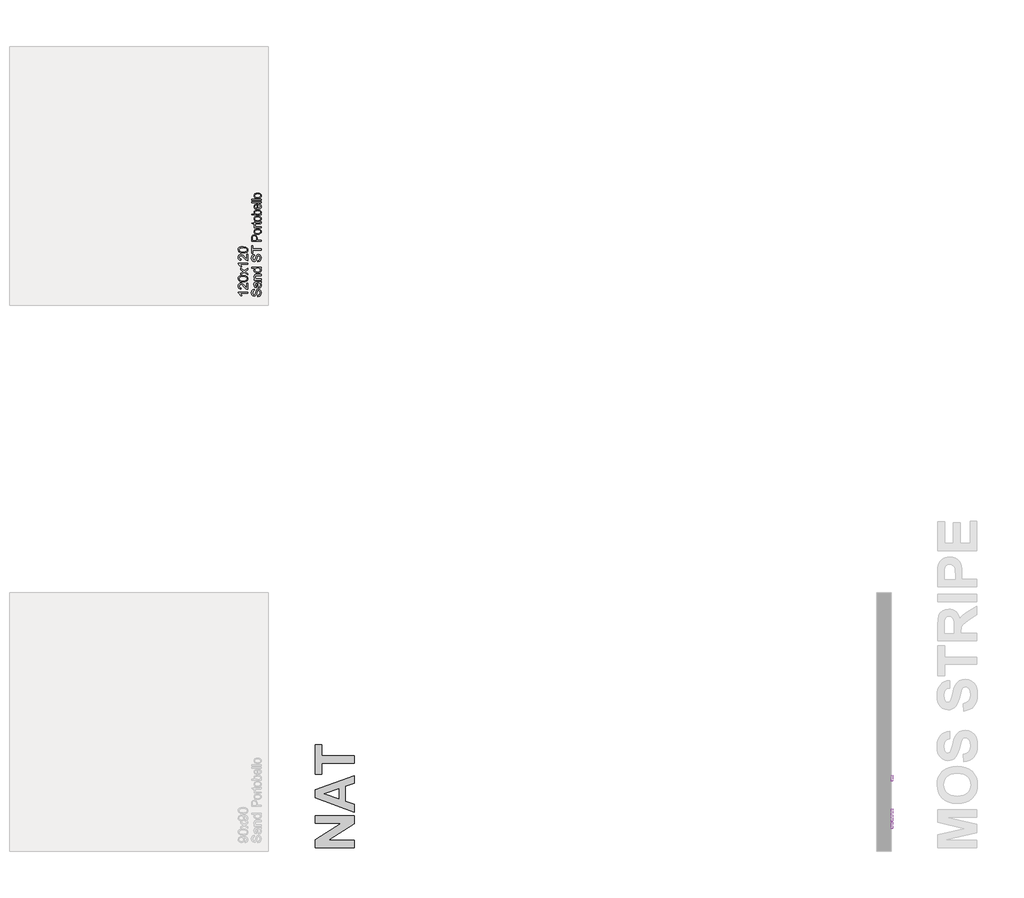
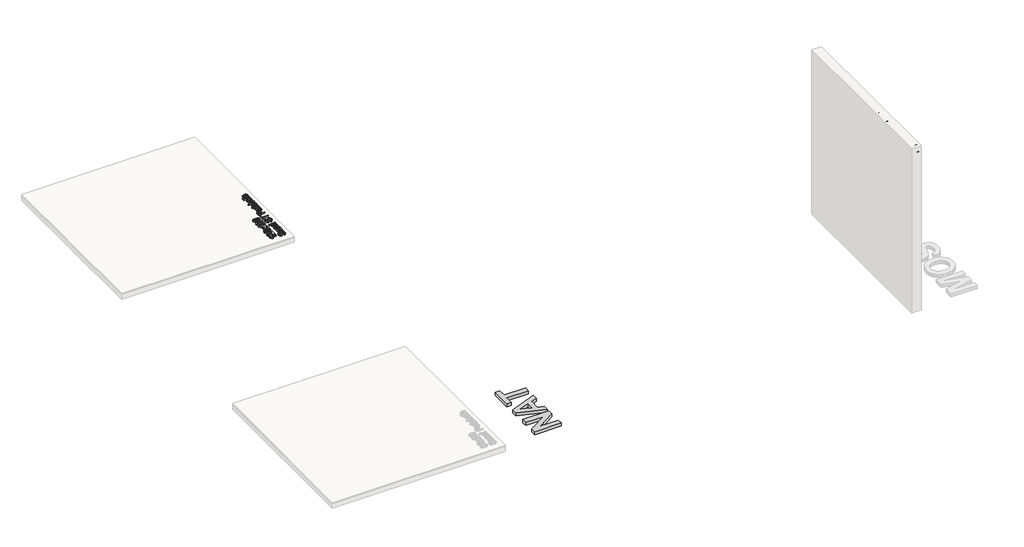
# One storey, part 4 of 19: 7 proxies.
"""IFC4 building model written with IfcOpenShell, lengths in millimetres."""

from ifc_helpers import new_model, si_unit, frame, origin, origin_with_axes, place, context, project, spatial, polyline, outline, extrude, element, save

model = new_model("IFC4")

# Units and contexts
model_context = context("Model", 3, world=origin())
ifc_project = project(units=[si_unit("LENGTHUNIT", "METRE", prefix="MILLI")], contexts=[model_context])

# Site, building, storey
site = spatial("IfcSite", under=ifc_project)
building = spatial("IfcBuilding", under=site)
storey = spatial("IfcBuildingStorey", under=building, Name="PORTOBELLO - SHOWROOM", Elevation=0.0)

# Proxies
placement = place(None, origin())
element("IfcBuildingElementProxy", 1, Name="10mm Arial", ObjectType="10mm Arial", at=placement, inside=storey, context=model_context, shape_type="SweptSolid", body=[
    extrude(outline(polyline([(-6403.2913328, -1306.5341901), (-6403.2913328, -1293.9771514), (-6390.7220313, -1289.9304494), (-6382.7757802, -1280.0466865), (-6379.7468851, -1264.9880502), (-6382.0400162, -1251.8669257), (-6388.3430611, -1243.393377), (-6396.7675588, -1240.6097366), (-6404.6034453, -1242.6944012), (-6410.3056162, -1251.2292635), (-6415.1003449, -1269.5129987), (-6421.2930251, -1289.1946854), (-6430.6372278, -1299.875526), (-6443.1206902, -1303.3949304), (-6457.3331979, -1299.0416602), (-6467.3641136, -1286.3252059), (-6470.7854162, -1267.7103769), (-6467.2046981, -1247.8447492), (-6456.683273, -1234.6009973), (-6440.9624491, -1229.6223277), (-6440.9624491, -1242.1793664), (-6448.4549791, -1244.4847603), (-6453.8628444, -1249.2917517), (-6458.2283774, -1267.2198676), (-6453.9118953, -1285.1970344), (-6443.4885721, -1290.8378917), (-6434.7820316, -1286.8402407), (-6427.7677482, -1266.3369508), (-6421.4647034, -1244.1168783), (-6411.2866348, -1231.9645097), (-6397.0863898, -1228.0526978), (-6382.0645417, -1232.5531209), (-6371.1016582, -1245.5025671), (-6367.1898463, -1264.4975408), (-6371.4082266, -1286.9260798), (-6384.1124181, -1301.1140621), (-6403.2913328, -1306.5341901)])), frame((0.0, 0.0, 17.0), z_axis=(0.0, 0.0, 1.0), x_axis=(1.0, 0.0, 0.0)), (0.0, 0.0, 1.0), 20.0),
    extrude(outline(polyline([(-6378.1772553, -1163.6978741), (-6369.6669185, -1175.8747682), (-6367.1898463, -1189.3269865), (-6368.6797684, -1199.8208204), (-6373.1495347, -1207.5616707), (-6379.9369575, -1212.3349396), (-6388.3798493, -1213.9260292), (-6398.3126631, -1211.5225335), (-6405.5231502, -1205.2072259), (-6409.6434286, -1196.4148462), (-6411.5318895, -1185.5500647), (-6415.8483716, -1163.7714505), (-6418.6442747, -1163.6978741), (-6427.914901, -1167.1559649), (-6431.54467, -1181.0373789), (-6429.1289116, -1193.7415704), (-6420.5572611, -1199.7993606), (-6422.126891, -1212.3563994), (-6434.3896241, -1206.9240086), (-6441.5755858, -1195.9856506), (-6444.1017088, -1179.4186981), (-6441.8698914, -1164.2006462), (-6436.2658223, -1155.6044703), (-6427.7432228, -1151.753972), (-6416.7558138, -1151.1408354), (-6401.1330918, -1151.1408354), (-6379.3176895, -1150.5031733), (-6368.7594762, -1148.0015757), (-6368.7594762, -1160.5586145), (-6378.1772553, -1163.6978741)]), holes=[polyline([(-6403.2913328, -1163.6978741), (-6399.4408346, -1183.9559093), (-6397.4052209, -1194.7593773), (-6394.0942829, -1199.6522078), (-6389.2627661, -1201.3689905), (-6382.4692119, -1197.6288568), (-6379.7468851, -1186.6537106), (-6382.7512547, -1173.9495191), (-6390.0230555, -1165.7580133), (-6399.7351402, -1163.7714505), (-6403.2913328, -1163.6978741)])]), frame((0.0, 0.0, 17.0), z_axis=(0.0, 0.0, 1.0), x_axis=(1.0, 0.0, 0.0)), (0.0, 0.0, 1.0), 20.0),
    extrude(outline(polyline([(-6368.7594762, -1133.8749071), (-6442.532079, -1133.8749071), (-6442.532079, -1121.3178683), (-6432.2313831, -1121.3178683), (-6441.1341274, -1111.7161482), (-6444.1017088, -1098.6072865), (-6441.7104758, -1086.7492235), (-6435.4319565, -1078.6558196), (-6426.1981184, -1074.8911605), (-6414.0580125, -1074.2289729), (-6368.7594762, -1074.2289729), (-6368.7594762, -1086.7860117), (-6412.3657554, -1086.7860117), (-6423.4757916, -1088.2330142), (-6429.3496408, -1093.3465739), (-6431.54467, -1101.9672754), (-6426.6150513, -1115.5911719), (-6419.4720092, -1119.8861942), (-6407.9021205, -1121.3178683), (-6368.7594762, -1121.3178683), (-6368.7594762, -1133.8749071)])), frame((0.0, 0.0, 17.0), z_axis=(0.0, 0.0, 1.0), x_axis=(1.0, 0.0, 0.0)), (0.0, 0.0, 1.0), 20.0),
    extrude(outline(polyline([(-6368.7594762, -1011.4437791), (-6380.6052764, -1011.4437791), (-6370.5437039, -1019.7517808), (-6367.1898463, -1031.2358304), (-6372.0458887, -1046.7849761), (-6385.5962088, -1057.772385), (-6405.5722012, -1061.6719341), (-6425.5604563, -1058.0789533), (-6439.3192429, -1047.3122736), (-6444.1017088, -1031.2848813), (-6440.6804063, -1019.7088612), (-6431.7899247, -1011.4437791), (-6469.2157863, -1011.4437791), (-6469.2157863, -998.8867403), (-6368.7594762, -998.8867403), (-6368.7594762, -1011.4437791)]), holes=[polyline([(-6405.6212521, -1049.1148954), (-6394.2628955, -1047.6985497), (-6386.18482, -1043.4495127), (-6381.3563688, -1037.2752265), (-6379.7468851, -1030.0831335), (-6381.2827924, -1022.8941062), (-6385.8905144, -1016.8761699), (-6393.6558902, -1012.8018768), (-6404.6647589, -1011.4437791), (-6416.7006315, -1012.8264022), (-6425.0454215, -1016.9742717), (-6429.9198579, -1023.1454922), (-6431.54467, -1030.5981683), (-6429.9842372, -1037.8638377), (-6425.3029389, -1043.8173947), (-6417.2616516, -1047.7905202), (-6405.6212521, -1049.1148954)])]), frame((0.0, 0.0, 17.0), z_axis=(0.0, 0.0, 1.0), x_axis=(1.0, 0.0, 0.0)), (0.0, 0.0, 1.0), 20.0),
    extrude(outline(polyline([(-6403.2913328, -943.9496957), (-6403.2913328, -931.3926569), (-6390.7220313, -927.345955), (-6382.7757802, -917.462192), (-6379.7468851, -902.4035557), (-6382.0400162, -889.2824312), (-6388.3430611, -880.8088826), (-6396.7675588, -878.0252422), (-6404.6034453, -880.1099068), (-6410.3056162, -888.6447691), (-6415.1003449, -906.9285042), (-6421.2930251, -926.610191), (-6430.6372278, -937.2910316), (-6443.1206902, -940.810436), (-6457.3331979, -936.4571657), (-6467.3641136, -923.7407114), (-6470.7854162, -905.1258825), (-6467.2046981, -885.2602547), (-6456.683273, -872.0165029), (-6440.9624491, -867.0378332), (-6440.9624491, -879.594872), (-6448.4549791, -881.9002658), (-6453.8628444, -886.7072572), (-6458.2283774, -904.6353731), (-6453.9118953, -922.61254), (-6443.4885721, -928.2533972), (-6434.7820316, -924.2557462), (-6427.7677482, -903.7524564), (-6421.4647034, -881.5323838), (-6411.2866348, -869.3800153), (-6397.0863898, -865.4682034), (-6382.0645417, -869.9686265), (-6371.1016582, -882.9180727), (-6367.1898463, -901.9130464), (-6371.4082266, -924.3415853), (-6384.1124181, -938.5295676), (-6403.2913328, -943.9496957)])), frame((0.0, 0.0, 17.0), z_axis=(0.0, 0.0, 1.0), x_axis=(1.0, 0.0, 0.0)), (0.0, 0.0, 1.0), 20.0),
    extrude(outline(polyline([(-6368.7594762, -821.5185677), (-6456.6587476, -821.5185677), (-6456.6587476, -854.4807945), (-6469.2157863, -854.4807945), (-6469.2157863, -775.9993022), (-6456.6587476, -775.9993022), (-6456.6587476, -808.9615289), (-6368.7594762, -808.9615289), (-6368.7594762, -821.5185677)])), frame((0.0, 0.0, 17.0), z_axis=(0.0, 0.0, 1.0), x_axis=(1.0, 0.0, 0.0)), (0.0, 0.0, 1.0), 20.0),
])
element("IfcBuildingElementProxy", 2, Name="10mm Arial", ObjectType="10mm Arial", at=placement, inside=storey, context=model_context, shape_type="SweptSolid", body=[
    extrude(outline(polyline([(-6508.7594762, -1259.4452948), (-6508.7594762, -1272.0023335), (-6587.0447648, -1272.0023335), (-6578.5712161, -1283.8971847), (-6572.2313831, -1297.1164111), (-6584.1017088, -1297.1164111), (-6595.8494072, -1278.7100486), (-6609.2157863, -1267.5386987), (-6609.2157863, -1259.4452948), (-6508.7594762, -1259.4452948)])), frame((0.0, 0.0, 17.0), z_axis=(0.0, 0.0, 1.0), x_axis=(1.0, 0.0, 0.0)), (0.0, 0.0, 1.0), 20.0),
    extrude(outline(polyline([(-6521.316515, -1165.267504), (-6508.7594762, -1165.267504), (-6508.7594762, -1231.1919575), (-6517.4169658, -1229.8430569), (-6530.7465568, -1222.2033741), (-6545.3024211, -1206.4702875), (-6566.2226438, -1184.8020379), (-6580.4474143, -1179.3941726), (-6591.9621208, -1184.5077323), (-6596.6587476, -1197.8618488), (-6592.0724854, -1211.7800509), (-6579.3928193, -1217.0652889), (-6580.9624491, -1229.6223277), (-6593.1086863, -1226.5781042), (-6601.9807738, -1219.9960821), (-6607.4070332, -1210.2196181), (-6609.2157863, -1197.5920686), (-6607.2046981, -1184.8725487), (-6601.1714334, -1175.1144787), (-6592.1583245, -1168.9064701), (-6581.2077038, -1166.8371338), (-6569.3005899, -1169.0689513), (-6556.9888058, -1176.4879048), (-6539.7841911, -1194.4773344), (-6527.7053989, -1208.9228341), (-6521.316515, -1214.5882168), (-6521.316515, -1165.267504)])), frame((0.0, 0.0, 17.0), z_axis=(0.0, 0.0, 1.0), x_axis=(1.0, 0.0, 0.0)), (0.0, 0.0, 1.0), 20.0),
    extrude(outline(polyline([(-6558.1782909, -1152.7104652), (-6587.081553, -1149.0193825), (-6603.7466074, -1138.0564991), (-6609.2157863, -1119.7482385), (-6605.9784248, -1105.0820096), (-6596.6464848, -1094.952992), (-6581.7840522, -1089.0668801), (-6558.1782909, -1086.7860117), (-6529.3976561, -1090.4403062), (-6512.6958135, -1101.3664014), (-6508.5663381, -1109.5977611), (-6507.1898463, -1119.7482385), (-6509.5810793, -1132.7957866), (-6516.7547782, -1142.704075), (-6533.744795, -1150.2088677), (-6558.1782909, -1152.7104652)]), holes=[polyline([(-6558.2028163, -1140.1534265), (-6538.4506189, -1138.6818985), (-6527.0186859, -1134.2673145), (-6521.5648353, -1127.6944896), (-6519.7468851, -1119.7482385), (-6521.5709667, -1111.8019874), (-6527.0432114, -1105.2291624), (-6538.4812757, -1100.8145784), (-6558.2028163, -1099.3430505), (-6577.5104897, -1100.7655275), (-6589.0313275, -1105.0329586), (-6594.7518926, -1111.5935209), (-6596.6587476, -1119.8953913), (-6594.9787531, -1127.7558032), (-6589.9387698, -1134.0711108), (-6577.7005621, -1138.6328475), (-6558.2028163, -1140.1534265)])]), frame((0.0, 0.0, 17.0), z_axis=(0.0, 0.0, 1.0), x_axis=(1.0, 0.0, 0.0)), (0.0, 0.0, 1.0), 20.0),
    extrude(outline(polyline([(-6508.7594762, -1080.5074923), (-6545.8665068, -1053.6766321), (-6582.532079, -1078.9378625), (-6582.532079, -1063.8792261), (-6564.8492177, -1051.6900693), (-6556.5350846, -1045.9756357), (-6563.3531643, -1041.0214915), (-6582.532079, -1027.1400775), (-6582.532079, -1012.0323903), (-6545.8419813, -1038.5689449), (-6508.7594762, -1013.0134089), (-6508.7594762, -1028.0965707), (-6531.0776506, -1043.4985636), (-6535.1734034, -1046.2944668), (-6508.7594762, -1065.399805), (-6508.7594762, -1080.5074923)])), frame((0.0, 0.0, 17.0), z_axis=(0.0, 0.0, 1.0), x_axis=(1.0, 0.0, 0.0)), (0.0, 0.0, 1.0), 20.0),
    extrude(outline(polyline([(-6508.7594762, -958.0763643), (-6508.7594762, -970.6334031), (-6587.0447648, -970.6334031), (-6578.5712161, -982.5282543), (-6572.2313831, -995.7474806), (-6584.1017088, -995.7474806), (-6595.8494072, -977.3411181), (-6609.2157863, -966.1697682), (-6609.2157863, -958.0763643), (-6508.7594762, -958.0763643)])), frame((0.0, 0.0, 17.0), z_axis=(0.0, 0.0, 1.0), x_axis=(1.0, 0.0, 0.0)), (0.0, 0.0, 1.0), 20.0),
    extrude(outline(polyline([(-6521.316515, -863.8985735), (-6508.7594762, -863.8985735), (-6508.7594762, -929.8230271), (-6517.4169658, -928.4741264), (-6530.7465568, -920.8344437), (-6545.3024211, -905.101357), (-6566.2226438, -883.4331075), (-6580.4474143, -878.0252422), (-6591.9621208, -883.1388019), (-6596.6587476, -896.4929183), (-6592.0724854, -910.4111205), (-6579.3928193, -915.6963585), (-6580.9624491, -928.2533972), (-6593.1086863, -925.2091737), (-6601.9807738, -918.6271517), (-6607.4070332, -908.8506877), (-6609.2157863, -896.2231382), (-6607.2046981, -883.5036182), (-6601.1714334, -873.7455483), (-6592.1583245, -867.5375396), (-6581.2077038, -865.4682034), (-6569.3005899, -867.7000208), (-6556.9888058, -875.1189744), (-6539.7841911, -893.108404), (-6527.7053989, -907.5539036), (-6521.316515, -913.2192864), (-6521.316515, -863.8985735)])), frame((0.0, 0.0, 17.0), z_axis=(0.0, 0.0, 1.0), x_axis=(1.0, 0.0, 0.0)), (0.0, 0.0, 1.0), 20.0),
    extrude(outline(polyline([(-6558.1782909, -851.3415348), (-6587.081553, -847.6504521), (-6603.7466074, -836.6875686), (-6609.2157863, -818.379308), (-6605.9784248, -803.7130791), (-6596.6464848, -793.5840615), (-6581.7840522, -787.6979496), (-6558.1782909, -785.4170812), (-6529.3976561, -789.0713757), (-6512.6958135, -799.997471), (-6508.5663381, -808.2288306), (-6507.1898463, -818.379308), (-6509.5810793, -831.4268561), (-6516.7547782, -841.3351445), (-6533.744795, -848.8399372), (-6558.1782909, -851.3415348)]), holes=[polyline([(-6558.2028163, -838.784496), (-6538.4506189, -837.312968), (-6527.0186859, -832.8983841), (-6521.5648353, -826.3255591), (-6519.7468851, -818.379308), (-6521.5709667, -810.4330569), (-6527.0432114, -803.8602319), (-6538.4812757, -799.445648), (-6558.2028163, -797.97412), (-6577.5104897, -799.3965971), (-6589.0313275, -803.6640282), (-6594.7518926, -810.2245904), (-6596.6587476, -818.5264608), (-6594.9787531, -826.3868728), (-6589.9387698, -832.7021804), (-6577.7005621, -837.2639171), (-6558.2028163, -838.784496)])]), frame((0.0, 0.0, 17.0), z_axis=(0.0, 0.0, 1.0), x_axis=(1.0, 0.0, 0.0)), (0.0, 0.0, 1.0), 20.0),
])
element("IfcBuildingElementProxy", 3, Name="10mm Arial", ObjectType="10mm Arial", at=placement, inside=storey, context=model_context, shape_type="SweptSolid", body=[
    extrude(outline(polyline([(-7011.3816689, 2567.3783476), (-7008.0339427, 2589.5922887), (-6997.9907643, 2606.3983645), (-6982.6562164, 2616.9749719), (-6963.4343822, 2620.5005077), (-6950.2580754, 2618.8450387), (-6938.442932, 2613.8786317), (-6928.6327454, 2605.9507747), (-6921.4713093, 2595.4109556), (-6917.0935135, 2582.7680777), (-6915.6342483, 2568.5310445), (-6917.1701556, 2554.1039389), (-6921.7778776, 2541.2832514), (-6929.2029625, 2530.7250381), (-6939.1909587, 2523.0853553), (-6950.9049346, 2518.4500422), (-6963.5079586, 2516.9049378), (-6976.8866005, 2518.6125234), (-6988.7691889, 2523.7352802), (-6998.55485, 2531.81029), (-7005.6427098, 2542.3746346), (-7011.3816689, 2567.3783476)]), holes=[polyline([(-6998.8246301, 2567.2557202), (-6996.3138355, 2551.5410277), (-6988.7814516, 2539.5664687), (-6977.4598832, 2531.9880996), (-6963.581535, 2529.4619766), (-6949.5008516, 2532.0126251), (-6938.1608891, 2539.6645706), (-6930.6836876, 2552.0070115), (-6928.191287, 2568.6291463), (-6932.4587182, 2589.3531654), (-6944.9299178, 2603.0751638), (-6963.3608058, 2607.9434689), (-6976.8682064, 2605.5982212), (-6988.352256, 2598.562478), (-6996.2065366, 2586.0452931), (-6998.8246301, 2567.2557202)])]), frame((205.794953, 0.0, 0.0), z_axis=(1.0, 0.0, 0.0), x_axis=(0.0, 1.0, 0.0)), (0.0, 0.0, 1.0), 20.0),
    extrude(outline(polyline([(-6855.9883141, 2518.4745677), (-6855.9883141, 2579.6901317), (-6866.975723, 2579.6901317), (-6866.975723, 2592.2471704), (-6855.9883141, 2592.2471704), (-6855.9883141, 2599.6783867), (-6854.6639389, 2610.1507609), (-6848.2382668, 2617.6310281), (-6835.5831261, 2620.5005077), (-6824.1297333, 2619.1270815), (-6825.9691433, 2607.3548577), (-6833.2041559, 2607.9434689), (-6841.1136188, 2605.8588043), (-6843.4312753, 2598.0842314), (-6843.4312753, 2592.2471704), (-6829.3046067, 2592.2471704), (-6829.3046067, 2579.6901317), (-6843.4312753, 2579.6901317), (-6843.4312753, 2518.4745677), (-6855.9883141, 2518.4745677)])), frame((205.794953, 0.0, 0.0), z_axis=(1.0, 0.0, 0.0), x_axis=(0.0, 1.0, 0.0)), (0.0, 0.0, 1.0), 20.0),
    extrude(outline(polyline([(-6896.7986901, 2518.4745677), (-6896.7986901, 2579.6901317), (-6907.786099, 2579.6901317), (-6907.786099, 2592.2471704), (-6896.7986901, 2592.2471704), (-6896.7986901, 2599.6783867), (-6895.4743149, 2610.1507609), (-6889.0486428, 2617.6310281), (-6876.3935021, 2620.5005077), (-6864.9401093, 2619.1270815), (-6866.7795193, 2607.3548577), (-6874.0145319, 2607.9434689), (-6881.9239948, 2605.8588043), (-6884.2416513, 2598.0842314), (-6884.2416513, 2592.2471704), (-6870.1149827, 2592.2471704), (-6870.1149827, 2579.6901317), (-6884.2416513, 2579.6901317), (-6884.2416513, 2518.4745677), (-6896.7986901, 2518.4745677)])), frame((205.794953, 0.0, 0.0), z_axis=(1.0, 0.0, 0.0), x_axis=(0.0, 1.0, 0.0)), (0.0, 0.0, 1.0), 20.0),
    extrude(outline(polyline([(-6759.529655, 2518.4745677), (-6786.9246009, 2618.9308778), (-6773.9751547, 2618.9308778), (-6758.0826525, 2552.9083224), (-6753.1775592, 2532.5276599), (-6747.9291094, 2550.5538776), (-6728.0144307, 2618.9308778), (-6709.3505508, 2618.9308778), (-6694.8805257, 2569.3649103), (-6684.113846, 2532.5276599), (-6679.3559055, 2552.3197112), (-6663.340776, 2618.9308778), (-6650.3668043, 2618.9308778), (-6677.7372247, 2518.4745677), (-6691.1771803, 2518.4745677), (-6715.2857137, 2595.9750413), (-6718.6457026, 2606.790772), (-6722.4226244, 2593.7677493), (-6744.3729168, 2518.4745677), (-6759.529655, 2518.4745677)])), frame((205.794953, 0.0, 0.0), z_axis=(1.0, 0.0, 0.0), x_axis=(0.0, 1.0, 0.0)), (0.0, 0.0, 1.0), 20.0),
    extrude(outline(polyline([(-6639.3793954, 2518.4745677), (-6639.3793954, 2618.9308778), (-6626.8223566, 2618.9308778), (-6626.8223566, 2581.9955255), (-6617.0305642, 2590.8614816), (-6604.9701661, 2593.8168003), (-6590.8680229, 2590.5917015), (-6582.3086352, 2581.6766944), (-6579.7334612, 2565.1710556), (-6579.7334612, 2518.4745677), (-6592.2905, 2518.4745677), (-6592.2905, 2563.8712059), (-6596.288151, 2577.1149577), (-6607.6189164, 2581.2597615), (-6617.9073496, 2578.4638583), (-6624.7744801, 2570.8854892), (-6626.8223566, 2557.6662629), (-6626.8223566, 2518.4745677), (-6639.3793954, 2518.4745677)])), frame((205.794953, 0.0, 0.0), z_axis=(1.0, 0.0, 0.0), x_axis=(0.0, 1.0, 0.0)), (0.0, 0.0, 1.0), 20.0),
    extrude(outline(polyline([(225.794953, -6549.9104941), (225.794953, -6562.4675329), (205.794953, -6562.4675329), (205.794953, -6549.9104941), (225.794953, -6549.9104941)])), frame((0.0, 0.0, 2606.373839), z_axis=(0.0, 0.0, 1.0), x_axis=(1.0, 0.0, 0.0)), (0.0, 0.0, 1.0), 12.5570388),
    extrude(outline(polyline([(225.794953, -6549.9104941), (225.794953, -6562.4675329), (205.794953, -6562.4675329), (205.794953, -6549.9104941), (225.794953, -6549.9104941)])), frame((0.0, 0.0, 2518.4745677), z_axis=(0.0, 0.0, 1.0), x_axis=(1.0, 0.0, 0.0)), (0.0, 0.0, 1.0), 73.7726028),
    extrude(outline(polyline([(-6504.3912286, 2528.9469418), (-6502.8215987, 2518.1066857), (-6512.2148524, 2516.9049378), (-6522.7362774, 2518.9896025), (-6527.9847272, 2524.4587815), (-6529.5053061, 2538.7080774), (-6529.5053061, 2579.6901317), (-6538.9230852, 2579.6901317), (-6538.9230852, 2592.2471704), (-6529.5053061, 2592.2471704), (-6529.5053061, 2610.1752863), (-6516.9482674, 2617.5574517), (-6516.9482674, 2592.2471704), (-6504.3912286, 2592.2471704), (-6504.3912286, 2579.6901317), (-6516.9482674, 2579.6901317), (-6516.9482674, 2539.0759594), (-6516.2860798, 2532.6012363), (-6514.1401015, 2530.3081052), (-6509.8604076, 2529.4619766), (-6504.3912286, 2528.9469418)])), frame((205.794953, 0.0, 0.0), z_axis=(1.0, 0.0, 0.0), x_axis=(0.0, 1.0, 0.0)), (0.0, 0.0, 1.0), 20.0),
    extrude(outline(polyline([(-6440.1835577, 2540.4493855), (-6427.8717736, 2538.8797557), (-6432.3078173, 2529.602998), (-6439.38648, 2522.6684224), (-6448.9483462, 2518.345809), (-6460.8340004, 2516.9049378), (-6475.5676743, 2519.391207), (-6486.9045711, 2526.8500144), (-6494.1334523, 2538.7969822), (-6496.5430794, 2554.7477324), (-6494.1089268, 2571.2349771), (-6486.8064692, 2583.5651553), (-6475.6228566, 2591.253889), (-6461.5452389, 2593.8168003), (-6447.9060139, 2591.2600204), (-6437.0075098, 2583.5896808), (-6429.8614021, 2571.2840281), (-6427.4793661, 2554.8213088), (-6427.5529425, 2551.4367944), (-6483.9860406, 2551.4367944), (-6481.8124711, 2542.0374095), (-6476.7632908, 2535.1273593), (-6469.4761616, 2530.8783223), (-6460.5887457, 2529.4619766), (-6448.2769616, 2532.0862015), (-6440.1835577, 2540.4493855)]), holes=[polyline([(-6483.9860406, 2563.9938332), (-6440.0364049, 2563.9938332), (-6445.0641255, 2575.3736496), (-6452.3849772, 2579.7882335), (-6461.5942898, 2581.2597615), (-6477.0575964, 2576.5631347), (-6481.9228357, 2571.0724959), (-6483.9860406, 2563.9938332)])]), frame((205.794953, 0.0, 0.0), z_axis=(1.0, 0.0, 0.0), x_axis=(0.0, 1.0, 0.0)), (0.0, 0.0, 1.0), 20.0),
])
element("IfcBuildingElementProxy", 4, Name="10mm Arial", ObjectType="10mm Arial", at=placement, inside=storey, context=model_context, shape_type="SweptSolid", body=[
    extrude(outline(polyline([(-7011.3816689, 2410.158275), (-6998.8246301, 2411.7279049), (-6991.8961859, 2398.5086785), (-6978.9344769, 2394.4619766), (-6970.3260382, 2395.8537968), (-6963.6796368, 2400.0292574), (-6958.0142541, 2413.8125695), (-6963.6305859, 2426.798804), (-6977.9044073, 2431.9368892), (-6986.7090497, 2430.563463), (-6985.3110982, 2443.1205018), (-6983.3000099, 2442.973349), (-6969.050714, 2446.5785926), (-6964.3050362, 2451.152592), (-6962.7231437, 2457.6641034), (-6967.3094059, 2467.4865526), (-6979.1306806, 2471.373839), (-6991.0991082, 2467.4497644), (-6997.2550003, 2455.6775406), (-7009.812039, 2457.2471704), (-7006.114825, 2468.5227536), (-6999.5358686, 2476.9411199), (-6990.5350225, 2482.1834383), (-6979.572139, 2483.9308778), (-6964.4276636, 2480.4850498), (-6953.8326621, 2471.0672707), (-6950.1661049, 2458.3998673), (-6953.6487211, 2446.8238472), (-6963.949417, 2438.5097141), (-6950.2642067, 2429.9258009), (-6945.4572153, 2413.5918403), (-6947.860711, 2401.3536326), (-6955.0711982, 2391.1265132), (-6965.9543738, 2384.2103317), (-6979.3759353, 2381.9049378), (-6991.5160411, 2383.8731065), (-7001.3998041, 2389.7776125), (-7008.273066, 2398.8091155), (-7011.3816689, 2410.158275)])), frame((205.794953, 0.0, 0.0), z_axis=(1.0, 0.0, 0.0), x_axis=(0.0, 1.0, 0.0)), (0.0, 0.0, 1.0), 20.0),
    extrude(outline(polyline([(-6934.4698064, 2432.8933823), (-6930.7787237, 2461.7966444), (-6919.8158403, 2478.4616988), (-6901.5075797, 2483.9308778), (-6886.8413508, 2480.6935163), (-6876.7123332, 2471.3615763), (-6870.8262213, 2456.4991437), (-6868.5453529, 2432.8933823), (-6872.1996474, 2404.1127476), (-6883.1257426, 2387.410905), (-6891.3571023, 2383.2814296), (-6901.5075797, 2381.9049378), (-6914.5551277, 2384.2961708), (-6924.4634162, 2391.4698697), (-6931.9682089, 2408.4598865), (-6934.4698064, 2432.8933823)]), holes=[polyline([(-6921.9127677, 2432.9179078), (-6920.4412397, 2413.1657104), (-6916.0266557, 2401.7337774), (-6909.4538308, 2396.2799268), (-6901.5075797, 2394.4619766), (-6893.5613286, 2396.2860581), (-6886.9885036, 2401.7583028), (-6882.5739196, 2413.1963672), (-6881.1023917, 2432.9179078), (-6882.5248687, 2452.2255812), (-6886.7922998, 2463.746419), (-6893.3528621, 2469.466984), (-6901.6547325, 2471.373839), (-6909.5151444, 2469.6938446), (-6915.830452, 2464.6538613), (-6920.3921887, 2452.4156536), (-6921.9127677, 2432.9179078)])]), frame((205.794953, 0.0, 0.0), z_axis=(1.0, 0.0, 0.0), x_axis=(0.0, 1.0, 0.0)), (0.0, 0.0, 1.0), 20.0),
    extrude(outline(polyline([(-6862.2668335, 2383.4745677), (-6835.4359733, 2420.5815982), (-6860.6972037, 2457.2471704), (-6845.6385673, 2457.2471704), (-6833.4494105, 2439.5643092), (-6827.7349769, 2431.2501761), (-6822.7808327, 2438.0682557), (-6808.8994187, 2457.2471704), (-6793.7917315, 2457.2471704), (-6820.3282861, 2420.5570728), (-6794.7727501, 2383.4745677), (-6809.8559119, 2383.4745677), (-6825.2579048, 2405.792742), (-6828.053808, 2409.8884949), (-6847.1591462, 2383.4745677), (-6862.2668335, 2383.4745677)])), frame((205.794953, 0.0, 0.0), z_axis=(1.0, 0.0, 0.0), x_axis=(0.0, 1.0, 0.0)), (0.0, 0.0, 1.0), 20.0),
    extrude(outline(polyline([(-6786.9246009, 2410.158275), (-6774.3675621, 2411.7279049), (-6767.4391179, 2398.5086785), (-6754.4774089, 2394.4619766), (-6745.8689702, 2395.8537968), (-6739.2225688, 2400.0292574), (-6733.5571861, 2413.8125695), (-6739.1735179, 2426.798804), (-6753.4473393, 2431.9368892), (-6762.2519817, 2430.563463), (-6760.8540302, 2443.1205018), (-6758.8429419, 2442.973349), (-6744.593646, 2446.5785926), (-6739.8479682, 2451.152592), (-6738.2660757, 2457.6641034), (-6742.8523379, 2467.4865526), (-6754.6736126, 2471.373839), (-6766.6420402, 2467.4497644), (-6772.7979323, 2455.6775406), (-6785.354971, 2457.2471704), (-6781.657757, 2468.5227536), (-6775.0788006, 2476.9411199), (-6766.0779545, 2482.1834383), (-6755.115071, 2483.9308778), (-6739.9705956, 2480.4850498), (-6729.3755941, 2471.0672707), (-6725.7090369, 2458.3998673), (-6729.1916531, 2446.8238472), (-6739.492349, 2438.5097141), (-6725.8071388, 2429.9258009), (-6721.0001474, 2413.5918403), (-6723.4036431, 2401.3536326), (-6730.6141302, 2391.1265132), (-6741.4973059, 2384.2103317), (-6754.9188673, 2381.9049378), (-6767.0589732, 2383.8731065), (-6776.9427361, 2389.7776125), (-6783.815998, 2398.8091155), (-6786.9246009, 2410.158275)])), frame((205.794953, 0.0, 0.0), z_axis=(1.0, 0.0, 0.0), x_axis=(0.0, 1.0, 0.0)), (0.0, 0.0, 1.0), 20.0),
    extrude(outline(polyline([(-6710.0127384, 2432.8933823), (-6706.3216557, 2461.7966444), (-6695.3587723, 2478.4616988), (-6677.0505117, 2483.9308778), (-6662.3842828, 2480.6935163), (-6652.2552652, 2471.3615763), (-6646.3691533, 2456.4991437), (-6644.0882849, 2432.8933823), (-6647.7425794, 2404.1127476), (-6658.6686746, 2387.410905), (-6666.9000343, 2383.2814296), (-6677.0505117, 2381.9049378), (-6690.0980598, 2384.2961708), (-6700.0063482, 2391.4698697), (-6707.5111409, 2408.4598865), (-6710.0127384, 2432.8933823)]), holes=[polyline([(-6697.4556997, 2432.9179078), (-6695.9841717, 2413.1657104), (-6691.5695877, 2401.7337774), (-6684.9967628, 2396.2799268), (-6677.0505117, 2394.4619766), (-6669.1042606, 2396.2860581), (-6662.5314356, 2401.7583028), (-6658.1168516, 2413.1963672), (-6656.6453237, 2432.9179078), (-6658.0678007, 2452.2255812), (-6662.3352319, 2463.746419), (-6668.8957941, 2469.466984), (-6677.1976645, 2471.373839), (-6685.0580764, 2469.6938446), (-6691.373384, 2464.6538613), (-6695.9351207, 2452.4156536), (-6697.4556997, 2432.9179078)])]), frame((205.794953, 0.0, 0.0), z_axis=(1.0, 0.0, 0.0), x_axis=(0.0, 1.0, 0.0)), (0.0, 0.0, 1.0), 20.0),
])
element("IfcBuildingElementProxy", 5, Name="10mm Arial Narrow", ObjectType="10mm Arial Narrow", at=placement, inside=storey, context=model_context, shape_type="SweptSolid", body=[
    extrude(outline(polyline([(-6368.7594762, -727.1065049), (-6469.4780799, -727.1065049), (-6469.4780799, -695.8096202), (-6467.5997592, -679.5139187), (-6458.119316, -668.0409326), (-6441.1002072, -663.7512541), (-6429.0243817, -665.5375625), (-6419.3979879, -670.8964877), (-6413.0967295, -680.6402765), (-6410.99631, -695.5811758), (-6410.99631, -717.3595432), (-6368.7594762, -717.3595432), (-6368.7594762, -727.1065049)]), holes=[polyline([(-6422.3677653, -717.3595432), (-6422.3677653, -694.3881883), (-6426.8985795, -678.5239929), (-6440.5671703, -673.4982158), (-6450.7329467, -675.9730303), (-6456.5328965, -681.9506591), (-6458.1066247, -694.6166327), (-6458.1066247, -717.3595432), (-6422.3677653, -717.3595432)])]), frame((0.0, 0.0, 17.0), z_axis=(0.0, 0.0, 1.0), x_axis=(1.0, 0.0, 0.0)), (0.0, 0.0, 1.0), 20.0),
    extrude(outline(polyline([(-6405.3105824, -655.6287861), (-6421.9013579, -653.6743172), (-6433.8534428, -647.8109106), (-6441.0779973, -638.9523439), (-6443.4861822, -628.0123947), (-6441.0779973, -617.1993591), (-6433.8534428, -608.3154097), (-6422.0917283, -602.375855), (-6406.0720638, -600.3960034), (-6388.9101772, -602.3409537), (-6376.767722, -608.1758048), (-6369.5431674, -617.024853), (-6367.1349826, -628.0123947), (-6369.5495131, -638.8730229), (-6376.7931047, -647.7474538), (-6388.7515352, -653.658453), (-6405.3105824, -655.6287861)]), holes=[polyline([(-6405.3359651, -645.8818244), (-6392.7842137, -644.5777876), (-6383.9129556, -640.665677), (-6378.6396971, -634.8244802), (-6376.8819442, -627.7331849), (-6378.6555613, -621.0131117), (-6383.9764124, -615.3210384), (-6392.8635347, -611.4374834), (-6405.3359651, -610.142965), (-6417.8496424, -611.4470019), (-6426.7082092, -615.3591125), (-6431.9814677, -621.2003092), (-6433.7392206, -628.2916046), (-6431.9719492, -635.0592703), (-6426.6701351, -640.7418251), (-6417.8020499, -644.5968246), (-6405.3359651, -645.8818244)])]), frame((0.0, 0.0, 17.0), z_axis=(0.0, 0.0, 1.0), x_axis=(1.0, 0.0, 0.0)), (0.0, 0.0, 1.0), 20.0),
    extrude(outline(polyline([(-6376.8819442, -528.9182846), (-6367.1349826, -527.293791), (-6367.1349826, -534.6547776), (-6369.2544391, -542.929542), (-6375.0543889, -547.2446031), (-6389.7002141, -548.4122079), (-6432.1147269, -548.4122079), (-6432.1147269, -556.5346759), (-6435.3637142, -556.5346759), (-6430.4902333, -558.1591695), (-6432.1147269, -565.7232179), (-6429.7922087, -571.8023776), (-6423.3069257, -575.6732413), (-6407.8996191, -577.6530929), (-6368.7594762, -577.6530929), (-6368.7594762, -587.4000545), (-6441.8616886, -587.4000545), (-6441.8616886, -577.6530929), (-6432.1654924, -577.6530929), (-6441.2525035, -571.4089455), (-6443.4861822, -565.012502), (-6441.8616886, -556.5346759), (-6441.8616886, -548.4122079), (-6458.1066247, -548.4122079), (-6466.2290927, -538.6652462), (-6441.8616886, -538.6652462), (-6441.8616886, -528.9182846), (-6432.1147269, -528.9182846), (-6432.1147269, -538.6652462), (-6387.4665354, -538.6652462), (-6379.4709809, -537.802234), (-6376.8819442, -533.1825803), (-6376.8819442, -528.9182846)])), frame((0.0, 0.0, 17.0), z_axis=(0.0, 0.0, 1.0), x_axis=(1.0, 0.0, 0.0)), (0.0, 0.0, 1.0), 20.0),
    extrude(outline(polyline([(-6405.3105824, -522.4203101), (-6421.9013579, -520.4658413), (-6433.8534428, -514.6024347), (-6441.0779973, -505.7438679), (-6443.4861822, -494.8039188), (-6441.0779973, -483.9908832), (-6433.8534428, -475.1069338), (-6422.0917283, -469.167379), (-6406.0720638, -467.1875274), (-6388.9101772, -469.1324778), (-6376.767722, -474.9673289), (-6369.5431674, -483.8163771), (-6367.1349826, -494.8039188), (-6369.5495131, -505.664547), (-6376.7931047, -514.5389779), (-6388.7515352, -520.4499771), (-6405.3105824, -522.4203101)]), holes=[polyline([(-6405.3359651, -512.6733485), (-6392.7842137, -511.3693116), (-6383.9129556, -507.457201), (-6378.6396971, -501.6160043), (-6376.8819442, -494.524709), (-6378.6555613, -487.8046358), (-6383.9764124, -482.1125625), (-6392.8635347, -478.2290074), (-6405.3359651, -476.9344891), (-6417.8496424, -478.238526), (-6426.7082092, -482.1506365), (-6431.9814677, -487.9918333), (-6433.7392206, -495.0831286), (-6431.9719492, -501.8507944), (-6426.6701351, -507.5333492), (-6417.8020499, -511.3883487), (-6405.3359651, -512.6733485)])]), frame((0.0, 0.0, 17.0), z_axis=(0.0, 0.0, 1.0), x_axis=(1.0, 0.0, 0.0)), (0.0, 0.0, 1.0), 20.0),
    extrude(outline(polyline([(-6368.7594762, -444.4446169), (-6368.7594762, -454.1915786), (-6469.4780799, -454.1915786), (-6469.4780799, -444.4446169), (-6434.0691958, -444.4446169), (-6441.1509726, -437.0455562), (-6443.4861822, -427.8443229), (-6439.2853433, -414.9625962), (-6426.5559129, -405.6852147), (-6405.8690021, -402.2077831), (-6389.4146586, -404.1400421), (-6377.2119195, -409.9368191), (-6369.6542168, -418.3099414), (-6367.1349826, -427.9712364), (-6369.749402, -437.3120747), (-6377.5165121, -444.4446169), (-6368.7594762, -444.4446169)]), holes=[polyline([(-6405.8690021, -444.4446169), (-6388.6214488, -442.3632345), (-6379.8897957, -436.4744452), (-6376.8819442, -428.0220018), (-6378.6714255, -422.0792742), (-6384.0398692, -416.8409169), (-6405.4628787, -411.9547447), (-6426.8985795, -416.6632379), (-6432.0290603, -421.9079409), (-6433.7392206, -428.2250635), (-6431.9497393, -434.2026924), (-6426.5812956, -439.494988), (-6405.8690021, -444.4446169)])]), frame((0.0, 0.0, 17.0), z_axis=(0.0, 0.0, 1.0), x_axis=(1.0, 0.0, 0.0)), (0.0, 0.0, 1.0), 20.0),
    extrude(outline(polyline([(-6391.5023867, -350.2239876), (-6389.8778931, -340.477026), (-6379.9913265, -344.1765563), (-6372.8714756, -349.9955432), (-6368.5691059, -357.6991965), (-6367.1349826, -367.0527261), (-6369.5495131, -378.6462801), (-6376.7931047, -387.7904023), (-6388.599239, -393.7299571), (-6404.7013973, -395.7098087), (-6421.368321, -393.7204386), (-6433.5488502, -387.7523282), (-6441.0018492, -378.7382924), (-6443.4861822, -367.6111458), (-6441.0875159, -356.9281966), (-6433.8915168, -348.1806792), (-6422.1520122, -342.3458282), (-6406.1228292, -340.4008778), (-6402.873842, -340.477026), (-6402.873842, -385.962847), (-6383.4306841, -379.9598355), (-6378.5191292, -374.0297992), (-6376.8819442, -366.9258125), (-6380.5370549, -356.7473448), (-6391.5023867, -350.2239876)]), holes=[polyline([(-6412.6208036, -385.3028965), (-6412.6208036, -350.2239876), (-6426.8858881, -354.4882833), (-6432.0258874, -360.3136159), (-6433.7392206, -367.5349976), (-6428.0281102, -379.7440824), (-6412.6208036, -385.3028965)])]), frame((0.0, 0.0, 17.0), z_axis=(0.0, 0.0, 1.0), x_axis=(1.0, 0.0, 0.0)), (0.0, 0.0, 1.0), 20.0),
    extrude(outline(polyline([(-6368.7594762, -327.4810771), (-6469.4780799, -327.4810771), (-6469.4780799, -317.7341154), (-6368.7594762, -317.7341154), (-6368.7594762, -327.4810771)])), frame((0.0, 0.0, 17.0), z_axis=(0.0, 0.0, 1.0), x_axis=(1.0, 0.0, 0.0)), (0.0, 0.0, 1.0), 20.0),
    extrude(outline(polyline([(-6368.7594762, -301.4891793), (-6469.4780799, -301.4891793), (-6469.4780799, -291.7422177), (-6368.7594762, -291.7422177), (-6368.7594762, -301.4891793)])), frame((0.0, 0.0, 17.0), z_axis=(0.0, 0.0, 1.0), x_axis=(1.0, 0.0, 0.0)), (0.0, 0.0, 1.0), 20.0),
    extrude(outline(polyline([(-6405.3105824, -280.3707624), (-6421.9013579, -278.4162935), (-6433.8534428, -272.5528869), (-6441.0779973, -263.6943202), (-6443.4861822, -252.7543711), (-6441.0779973, -241.9413355), (-6433.8534428, -233.0573861), (-6422.0917283, -227.1178313), (-6406.0720638, -225.1379797), (-6388.9101772, -227.0829301), (-6376.767722, -232.9177811), (-6369.5431674, -241.7668293), (-6367.1349826, -252.7543711), (-6369.5495131, -263.6149992), (-6376.7931047, -272.4894301), (-6388.7515352, -278.4004294), (-6405.3105824, -280.3707624)]), holes=[polyline([(-6405.3359651, -270.6238008), (-6392.7842137, -269.3197639), (-6383.9129556, -265.4076533), (-6378.6396971, -259.5664566), (-6376.8819442, -252.4751612), (-6378.6555613, -245.7550881), (-6383.9764124, -240.0630147), (-6392.8635347, -236.1794597), (-6405.3359651, -234.8849414), (-6417.8496424, -236.1889782), (-6426.7082092, -240.1010888), (-6431.9814677, -245.9422856), (-6433.7392206, -253.0335809), (-6431.9719492, -259.8012467), (-6426.6701351, -265.4838015), (-6417.8020499, -269.3388009), (-6405.3359651, -270.6238008)])]), frame((0.0, 0.0, 17.0), z_axis=(0.0, 0.0, 1.0), x_axis=(1.0, 0.0, 0.0)), (0.0, 0.0, 1.0), 20.0),
])
element("IfcBuildingElementProxy", 6, Name="10mm Arial Narrow", ObjectType="10mm Arial Narrow", at=placement, inside=storey, context=model_context, shape_type="SweptSolid", body=[
    extrude(outline(polyline([(-6364.7671845, 2518.4745677), (-6364.7671845, 2615.7916181), (-6334.5272845, 2615.7916181), (-6318.7819351, 2613.9767336), (-6307.6964243, 2604.8164719), (-6303.5516205, 2588.3721467), (-6305.2776002, 2576.7041561), (-6310.4555393, 2567.402873), (-6319.8702527, 2561.314426), (-6334.3065553, 2559.2849437), (-6355.3494054, 2559.2849437), (-6355.3494054, 2518.4745677), (-6364.7671845, 2518.4745677)]), holes=[polyline([(-6355.3494054, 2570.2723526), (-6333.1538584, 2570.2723526), (-6317.8254419, 2574.6501483), (-6312.9693996, 2587.857112), (-6315.3606325, 2597.6795612), (-6321.1363799, 2603.2836303), (-6333.3745876, 2604.8042092), (-6355.3494054, 2604.8042092), (-6355.3494054, 2570.2723526)])]), frame((205.794953, 0.0, 0.0), z_axis=(1.0, 0.0, 0.0), x_axis=(0.0, 1.0, 0.0)), (0.0, 0.0, 1.0), 20.0),
    extrude(outline(polyline([(-6295.7034713, 2553.7912392), (-6293.8150104, 2569.8216971), (-6288.1496276, 2581.3701261), (-6279.5902399, 2588.350687), (-6269.0197639, 2590.6775406), (-6258.5719152, 2588.350687), (-6249.988002, 2581.3701261), (-6244.2490429, 2570.0056381), (-6242.3360565, 2554.5270032), (-6244.2153204, 2537.9447223), (-6249.8531119, 2526.2123523), (-6258.4033026, 2519.2317914), (-6269.0197639, 2516.9049378), (-6279.5135978, 2519.2379228), (-6288.088314, 2526.2368778), (-6293.7996819, 2537.7914381), (-6295.7034713, 2553.7912392)]), holes=[polyline([(-6286.2856922, 2553.8157647), (-6285.0256964, 2541.6879216), (-6281.2457089, 2533.1162711), (-6275.6017859, 2528.0211054), (-6268.7499837, 2526.3227169), (-6262.2568665, 2528.0364339), (-6256.7570307, 2533.1775847), (-6253.0046344, 2541.7645636), (-6251.7538356, 2553.8157647), (-6253.0138314, 2565.9068196), (-6256.7938189, 2574.4662073), (-6262.4377418, 2579.561373), (-6269.289544, 2581.2597615), (-6275.8286465, 2579.5521759), (-6281.3192853, 2574.4294191), (-6285.0440905, 2565.8608343), (-6286.2856922, 2553.8157647)])]), frame((205.794953, 0.0, 0.0), z_axis=(1.0, 0.0, 0.0), x_axis=(0.0, 1.0, 0.0)), (0.0, 0.0, 1.0), 20.0),
    extrude(outline(polyline([(-6173.2723433, 2526.3227169), (-6171.7027134, 2516.9049378), (-6178.8150987, 2516.9049378), (-6186.8104007, 2518.9528143), (-6190.97973, 2524.5568833), (-6192.1079014, 2538.7080774), (-6192.1079014, 2579.6901317), (-6199.9560507, 2579.6901317), (-6199.9560507, 2582.8293914), (-6201.5256805, 2578.1205018), (-6208.8342695, 2579.6901317), (-6214.7081187, 2577.4460515), (-6218.4482523, 2571.1797948), (-6220.3612386, 2556.2928368), (-6220.3612386, 2518.4745677), (-6229.7790177, 2518.4745677), (-6229.7790177, 2589.1079107), (-6220.3612386, 2589.1079107), (-6220.3612386, 2579.7391826), (-6214.3279739, 2588.5192995), (-6208.1475564, 2590.6775406), (-6199.9560507, 2589.1079107), (-6192.1079014, 2589.1079107), (-6192.1079014, 2604.8042092), (-6182.6901223, 2612.6523584), (-6182.6901223, 2589.1079107), (-6173.2723433, 2589.1079107), (-6173.2723433, 2579.6901317), (-6182.6901223, 2579.6901317), (-6182.6901223, 2536.5498364), (-6181.8562565, 2528.8243145), (-6177.3926216, 2526.3227169), (-6173.2723433, 2526.3227169)])), frame((205.794953, 0.0, 0.0), z_axis=(1.0, 0.0, 0.0), x_axis=(0.0, 1.0, 0.0)), (0.0, 0.0, 1.0), 20.0),
    extrude(outline(polyline([(-6166.9938239, 2553.7912392), (-6165.105363, 2569.8216971), (-6159.4399802, 2581.3701261), (-6150.8805925, 2588.350687), (-6140.3101165, 2590.6775406), (-6129.8622678, 2588.350687), (-6121.2783546, 2581.3701261), (-6115.5393955, 2570.0056381), (-6113.6264091, 2554.5270032), (-6115.505673, 2537.9447223), (-6121.1434646, 2526.2123523), (-6129.6936553, 2519.2317914), (-6140.3101165, 2516.9049378), (-6150.8039504, 2519.2379228), (-6159.3786666, 2526.2368778), (-6165.0900346, 2537.7914381), (-6166.9938239, 2553.7912392)]), holes=[polyline([(-6157.5760448, 2553.8157647), (-6156.316049, 2541.6879216), (-6152.5360615, 2533.1162711), (-6146.8921385, 2528.0211054), (-6140.0403364, 2526.3227169), (-6133.5472192, 2528.0364339), (-6128.0473833, 2533.1775847), (-6124.294987, 2541.7645636), (-6123.0441882, 2553.8157647), (-6124.304184, 2565.9068196), (-6128.0841715, 2574.4662073), (-6133.7280945, 2579.561373), (-6140.5798966, 2581.2597615), (-6147.1189991, 2579.5521759), (-6152.6096379, 2574.4294191), (-6156.3344431, 2565.8608343), (-6157.5760448, 2553.8157647)])]), frame((205.794953, 0.0, 0.0), z_axis=(1.0, 0.0, 0.0), x_axis=(0.0, 1.0, 0.0)), (0.0, 0.0, 1.0), 20.0),
    extrude(outline(polyline([(-6091.6515913, 2518.4745677), (-6101.0693703, 2518.4745677), (-6101.0693703, 2615.7916181), (-6091.6515913, 2615.7916181), (-6091.6515913, 2581.5785926), (-6084.5024178, 2588.4211977), (-6075.6119363, 2590.6775406), (-6063.1652621, 2586.6185759), (-6054.2012042, 2574.3190545), (-6050.8412153, 2554.3307995), (-6052.7082164, 2538.4321659), (-6058.3092198, 2526.641548), (-6066.399558, 2519.3390904), (-6075.7345636, 2516.9049378), (-6084.7599352, 2519.4310609), (-6091.6515913, 2526.9358536), (-6091.6515913, 2518.4745677)]), holes=[polyline([(-6091.6515913, 2554.3307995), (-6089.640503, 2537.6657451), (-6083.9505948, 2529.2289847), (-6075.7836145, 2526.3227169), (-6070.0415897, 2528.0517623), (-6064.9801466, 2533.2388984), (-6060.2589943, 2553.938392), (-6064.8084684, 2574.6501483), (-6069.8760428, 2579.6073582), (-6075.9798183, 2581.2597615), (-6081.7555656, 2579.5307161), (-6086.8691253, 2574.34358), (-6091.6515913, 2554.3307995)])]), frame((205.794953, 0.0, 0.0), z_axis=(1.0, 0.0, 0.0), x_axis=(0.0, 1.0, 0.0)), (0.0, 0.0, 1.0), 20.0),
    extrude(outline(polyline([(-6000.6130602, 2540.4493855), (-5991.1952811, 2538.8797557), (-6000.392331, 2522.4476932), (-6016.8734444, 2516.9049378), (-6028.0754511, 2519.2379228), (-6036.9107504, 2526.2368778), (-6042.6497095, 2537.6442853), (-6044.5626959, 2553.202628), (-6042.6405125, 2569.3066623), (-6036.8739622, 2581.0758205), (-6028.164356, 2588.2771106), (-6017.4130046, 2590.6775406), (-6007.090849, 2588.359884), (-5998.6387602, 2581.4069143), (-5993.0009686, 2570.0638861), (-5991.1217047, 2554.5760541), (-5991.1952811, 2551.4367944), (-6035.1449168, 2551.4367944), (-6029.344644, 2532.6502872), (-6023.6148819, 2527.9046095), (-6016.7508171, 2526.3227169), (-6006.916105, 2529.854384), (-6000.6130602, 2540.4493855)]), holes=[polyline([(-6034.5072547, 2560.8545735), (-6000.6130602, 2560.8545735), (-6004.7333385, 2574.6378856), (-6010.3619331, 2579.6042925), (-6017.3394282, 2581.2597615), (-6029.1361776, 2575.7415316), (-6034.5072547, 2560.8545735)])]), frame((205.794953, 0.0, 0.0), z_axis=(1.0, 0.0, 0.0), x_axis=(0.0, 1.0, 0.0)), (0.0, 0.0, 1.0), 20.0),
    extrude(outline(polyline([(225.794953, -5969.2204633), (225.794953, -5978.6382424), (205.794953, -5978.6382424), (205.794953, -5969.2204633), (225.794953, -5969.2204633)])), frame((0.0, 0.0, 2518.4745677), z_axis=(0.0, 0.0, 1.0), x_axis=(1.0, 0.0, 0.0)), (0.0, 0.0, 1.0), 97.3170505),
    extrude(outline(polyline([(225.794953, -5944.1063857), (225.794953, -5953.5241648), (205.794953, -5953.5241648), (205.794953, -5944.1063857), (225.794953, -5944.1063857)])), frame((0.0, 0.0, 2518.4745677), z_axis=(0.0, 0.0, 1.0), x_axis=(1.0, 0.0, 0.0)), (0.0, 0.0, 1.0), 97.3170505),
    extrude(outline(polyline([(-5933.1189768, 2553.7912392), (-5931.2305159, 2569.8216971), (-5925.5651332, 2581.3701261), (-5917.0057454, 2588.350687), (-5906.4352694, 2590.6775406), (-5895.9874208, 2588.350687), (-5887.4035075, 2581.3701261), (-5881.6645484, 2570.0056381), (-5879.751562, 2554.5270032), (-5881.6308259, 2537.9447223), (-5887.2686175, 2526.2123523), (-5895.8188082, 2519.2317914), (-5906.4352694, 2516.9049378), (-5916.9291033, 2519.2379228), (-5925.5038195, 2526.2368778), (-5931.2151875, 2537.7914381), (-5933.1189768, 2553.7912392)]), holes=[polyline([(-5923.7011977, 2553.8157647), (-5922.4412019, 2541.6879216), (-5918.6612144, 2533.1162711), (-5913.0172915, 2528.0211054), (-5906.1654893, 2526.3227169), (-5899.6723721, 2528.0364339), (-5894.1725363, 2533.1775847), (-5890.4201399, 2541.7645636), (-5889.1693411, 2553.8157647), (-5890.429337, 2565.9068196), (-5894.2093245, 2574.4662073), (-5899.8532474, 2579.561373), (-5906.7050496, 2581.2597615), (-5913.244152, 2579.5521759), (-5918.7347908, 2574.4294191), (-5922.459596, 2565.8608343), (-5923.7011977, 2553.8157647)])]), frame((205.794953, 0.0, 0.0), z_axis=(1.0, 0.0, 0.0), x_axis=(0.0, 1.0, 0.0)), (0.0, 0.0, 1.0), 20.0),
])
element("IfcBuildingElementProxy", 7, Name="400mm Arial", ObjectType="400mm Arial", at=placement, inside=storey, context=model_context, shape_type="SweptSolid", body=[
    extrude(outline(polyline([(-5398.5490186, -7057.4361951), (-5806.6527786, -7057.4361951), (-5806.6527786, -6975.9571458), (-5531.9519838, -6804.8005342), (-5806.6527786, -6804.8005342), (-5806.6527786, -6727.0664847), (-5398.5490186, -6727.0664847), (-5398.5490186, -6811.0759392), (-5669.201165, -6979.7021456), (-5398.5490186, -6979.7021456), (-5398.5490186, -7057.4361951)])), origin_with_axes(), (0.0, 0.0, 1.0), 50.0),
    extrude(outline(polyline([(-5398.5490186, -6306.0070498), (-5398.5490186, -6387.6885315), (-5489.2387431, -6419.6728539), (-5489.2387431, -6573.723926), (-5398.5490186, -6605.3033837), (-5398.5490186, -6688.1994599), (-5806.6527786, -6539.4116307), (-5806.6527786, -6456.4143383), (-5398.5490186, -6306.0070498)]), holes=[polyline([(-5560.4949551, -6444.5720417), (-5709.4852167, -6497.1032548), (-5560.4949551, -6548.9259545), (-5560.4949551, -6444.5720417)])]), origin_with_axes(), (0.0, 0.0, 1.0), 50.0),
    extrude(outline(polyline([(-5398.5490186, -6176.4503006), (-5735.3965666, -6176.4503006), (-5735.3965666, -6293.0513748), (-5806.6527786, -6293.0513748), (-5806.6527786, -5982.1151768), (-5735.3965666, -5982.1151768), (-5735.3965666, -6098.716251), (-5398.5490186, -6098.716251), (-5398.5490186, -6176.4503006)])), origin_with_axes(), (0.0, 0.0, 1.0), 50.0),
])

save(model, "model.ifc")
